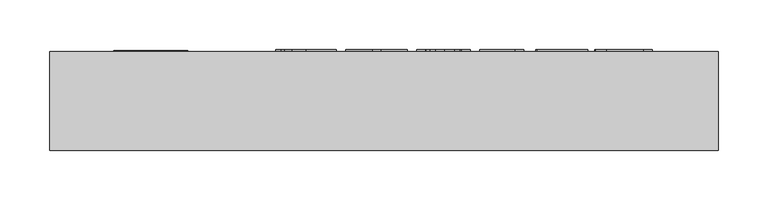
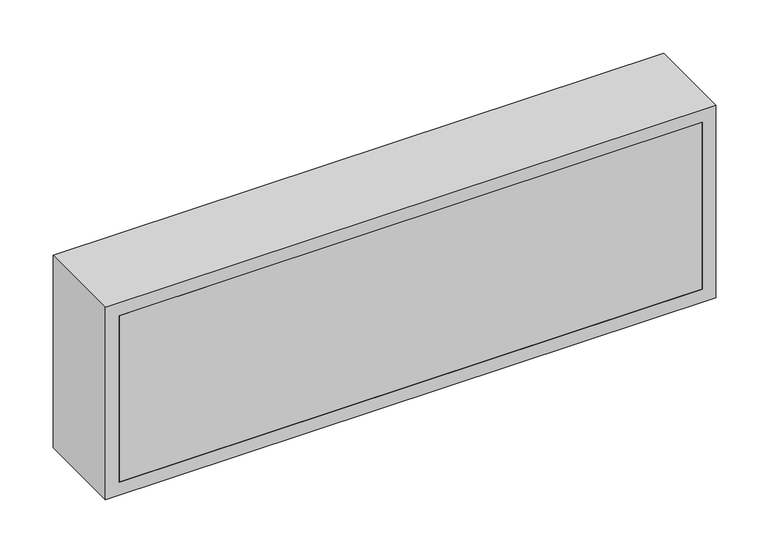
"""IFC4 building model written with IfcOpenShell, lengths in millimetres: light fixture geometry, Keluar Sign LED : Keluar Sign LED."""

from ifc_helpers import new_model, si_unit, point, frame, frame_2d, origin, place, context, project, spatial, polyline, circle_curve, trimmed, segment, composite_curve, outline, extrude, faceted_brep, source, transform, mapped, element, save


def light_fixture_4e43e032(model_context):
    return source(origin(), model_context, "Body", "SolidModel", [
        extrude(outline(polyline([(2270.0, 395.5959022), (2355.6108132, 395.5959022), (2355.6108132, 387.3109848), (2311.7913672, 387.3109848), (2355.6108132, 349.4031726), (2355.6108132, 338.917574), (2320.8961462, 368.9503996), (2270.0, 337.6014803), (2270.0, 347.0730395), (2314.4882804, 374.4736778), (2299.6660454, 387.3109848), (2270.0, 387.3109848), (2270.0, 395.5959022)])), frame((0.0, 200.0, 0.0), z_axis=(0.0, 1.0, 0.0), x_axis=(0.0, 0.0, 1.0)), (0.0, 0.0, 1.0), 2.0),
        extrude(outline(polyline([(2270.0, 330.6973825), (2355.6108132, 330.6973825), (2355.6108132, 279.6070585), (2345.9450762, 279.6070585), (2345.9450762, 322.4124651), (2318.3286849, 322.4124651), (2318.3286849, 282.3686976), (2308.6629479, 282.3686976), (2308.6629479, 322.4124651), (2279.665737, 322.4124651), (2279.665737, 278.2262389), (2270.0, 278.2262389), (2270.0, 330.6973825)])), frame((0.0, 200.0, 0.0), z_axis=(0.0, 1.0, 0.0), x_axis=(0.0, 0.0, 1.0)), (0.0, 0.0, 1.0), 2.0),
        extrude(outline(polyline([(2270.0, 265.7988628), (2355.6108132, 265.7988628), (2355.6108132, 257.5139454), (2279.665737, 257.5139454), (2279.665737, 221.6126366), (2270.0, 221.6126366), (2270.0, 265.7988628)])), frame((0.0, 200.0, 0.0), z_axis=(0.0, 1.0, 0.0), x_axis=(0.0, 0.0, 1.0)), (0.0, 0.0, 1.0), 2.0),
        extrude(outline(polyline([(2355.6108132, 166.3798539), (2355.6108132, 158.0949365), (2306.203363, 158.0949365), (2285.8039115, 160.4574325), (2273.2255082, 169.0551919), (2268.6191804, 184.9130416), (2270.6904098, 196.7605813), (2276.9040978, 205.2046166), (2288.3713728, 210.2613289), (2306.203363, 211.9468997), (2355.6108132, 211.9468997), (2355.6108132, 203.6619823), (2305.9013088, 203.6619823), (2288.9754814, 201.8172936), (2281.0141936, 195.7869957), (2278.2849174, 185.5818761), (2279.695403, 176.8708464), (2283.9268599, 170.9322435), (2292.2414433, 167.5179513), (2305.9013088, 166.3798539), (2355.6108132, 166.3798539)])), frame((0.0, 200.0, 0.0), z_axis=(0.0, 1.0, 0.0), x_axis=(0.0, 0.0, 1.0)), (0.0, 0.0, 1.0), 2.0),
        extrude(outline(polyline([(2270.0, 148.4291996), (2355.6108132, 121.8699982), (2355.6108132, 112.894671), (2270.0, 86.292319), (2270.0, 94.8792907), (2294.8547522, 102.1717441), (2294.8547522, 132.5066239), (2270.0, 139.8206526), (2270.0, 148.4291996)]), holes=[polyline([(2304.5204892, 129.6802589), (2304.5204892, 104.9981091), (2328.5338045, 112.3552884), (2346.5060342, 117.3607593), (2329.9577747, 121.4169168), (2304.5204892, 129.6802589)])]), frame((0.0, 200.0, 0.0), z_axis=(0.0, 1.0, 0.0), x_axis=(0.0, 0.0, 1.0)), (0.0, 0.0, 1.0), 2.0),
        extrude(outline(polyline([(2270.0, 76.6265821), (2355.6108132, 76.6265821), (2355.6108132, 45.9896479), (2353.2375296, 31.8254597), (2345.33018, 24.3280409), (2332.5036607, 21.3937993), (2316.9370776, 26.345332), (2309.3533577, 40.7252733), (2303.9811065, 34.0153532), (2293.1287278, 27.2407072), (2270.0, 15.8705211), (2270.0, 25.0616013), (2287.9075038, 34.6626124), (2302.2227191, 43.2064335), (2307.3468542, 48.9778277), (2308.6629479, 56.7988761), (2308.6629479, 68.3416646), (2270.0, 68.3416646), (2270.0, 76.6265821)]), holes=[polyline([(2318.3286849, 68.3416646), (2318.3286849, 47.6077958), (2319.8713192, 37.316375), (2324.7149754, 31.7391585), (2332.3957842, 29.6787168), (2342.3312125, 33.6162101), (2345.9450762, 45.3208134), (2345.9450762, 68.3416646), (2318.3286849, 68.3416646)])]), frame((0.0, 200.0, 0.0), z_axis=(0.0, 1.0, 0.0), x_axis=(0.0, 0.0, 1.0)), (0.0, 0.0, 1.0), 2.0),
        extrude(outline(composite_curve([segment(polyline([(2296.7108031, -87.5), (2355.4119272, -87.5), (2355.4119272, -147.5), (2322.9987167, -147.5), (2322.9987167, -140.7879258), (2332.8756024, -133.6119483)]), True, "CONTINUOUS"), segment(trimmed(circle_curve(frame_2d((2324.9809417, -122.7458802)), 13.4311989), [point((2332.8756024, -133.6119483))], [point((2338.4121406, -122.7458802))], True, "CARTESIAN"), True, "CONTINUOUS"), segment(polyline([(2338.4121406, -122.7458802), (2338.4121406, -104.7583474)]), True, "CONTINUOUS"), segment(trimmed(circle_curve(frame_2d((2333.574604, -104.255683)), 4.8635822), [point((2338.4121406, -104.7583474))], [point((2336.2990493, -100.2268084))], True, "CARTESIAN"), True, "CONTINUOUS"), segment(trimmed(circle_curve(frame_2d((2104.0691941, -443.6453157)), 414.5684223), [point((2336.2990493, -100.2268084))], [point((2323.3412197, -91.8118955))], True, "CARTESIAN"), True, "CONTINUOUS"), segment(trimmed(circle_curve(frame_2d((2322.189093, -94.6978333)), 3.1074158), [point((2323.3412197, -91.8118955))], [point((2319.8604508, -96.7553703))], True, "CARTESIAN"), True, "CONTINUOUS"), segment(trimmed(circle_curve(frame_2d((2392.575252, 6.516004)), 126.3028863), [point((2319.8604508, -96.7553703))], [point((2331.6316264, -104.1108173))], True, "CARTESIAN"), True, "CONTINUOUS"), segment(polyline([(2331.6316264, -104.1108173), (2331.6316264, -114.1108173), (2320.2515061, -108.3123563)]), True, "CONTINUOUS"), segment(trimmed(circle_curve(frame_2d((2306.7231442, -130.8622031)), 26.2966189), [point((2320.2515061, -108.3123563))], [point((2310.8545799, -104.8921549))], True, "CARTESIAN"), True, "CONTINUOUS"), segment(trimmed(circle_curve(frame_2d((2292.3275135, -221.3525927)), 117.9249158), [point((2310.8545799, -104.8921549))], [point((2294.3050576, -103.4442593))], True, "CARTESIAN"), True, "CONTINUOUS"), segment(polyline([(2294.3050576, -103.4442593), (2294.3050576, -84.5350869), (2287.680387, -78.7763486)]), True, "CONTINUOUS"), segment(trimmed(circle_curve(frame_2d((2287.680387, -80.0600635)), 1.2837149), [point((2287.680387, -78.7763486))], [point((2286.3966722, -80.0600635))], True, "CARTESIAN"), True, "CONTINUOUS"), segment(polyline([(2286.3966722, -80.0600635), (2286.3966722, -107.8691123)]), True, "CONTINUOUS"), segment(trimmed(circle_curve(frame_2d((2289.9322061, -107.8691123)), 3.5355339), [point((2286.3966722, -107.8691123))], [point((2289.9322061, -111.4046462))], True, "CARTESIAN"), True, "CONTINUOUS"), segment(trimmed(circle_curve(frame_2d((2309.0453468, -31.0772104)), 82.5700253), [point((2289.9322061, -111.4046462))], [point((2305.2768349, -113.5611931))], True, "CARTESIAN"), True, "CONTINUOUS"), segment(trimmed(circle_curve(frame_2d((2304.9032977, -114.7123421)), 1.2102371), [point((2305.2768349, -113.5611931))], [point((2305.648024, -115.666311))], False, "CARTESIAN"), True, "CONTINUOUS"), segment(trimmed(circle_curve(frame_2d((2413.956597, -396.6178004)), 301.1054406), [point((2305.648024, -115.666311))], [point((2271.7047746, -131.2333521))], True, "CARTESIAN"), True, "CONTINUOUS"), segment(trimmed(circle_curve(frame_2d((3167.2155777, -135.0765805)), 895.51905), [point((2271.7047746, -131.2333521))], [point((2271.7047746, -138.919809))], True, "CARTESIAN"), True, "CONTINUOUS"), segment(polyline([(2271.7047746, -138.919809), (2309.5452571, -123.6605708)]), True, "CONTINUOUS"), segment(trimmed(circle_curve(frame_2d((2311.5809544, -128.7087761)), 5.4432013), [point((2309.5452571, -123.6605708))], [point((2313.6166516, -123.6605708))], False, "CARTESIAN"), True, "CONTINUOUS"), segment(trimmed(circle_curve(frame_2d((2265.8710897, -242.0619663)), 127.6656929), [point((2313.6166516, -123.6605708))], [point((2325.8815651, -129.3797939))], False, "CARTESIAN"), True, "CONTINUOUS"), segment(trimmed(circle_curve(frame_2d((2325.4045949, -130.2754047)), 1.0147016), [point((2325.8815651, -129.3797939))], [point((2325.8815651, -131.1710155))], False, "CARTESIAN"), True, "CONTINUOUS"), segment(trimmed(circle_curve(frame_2d((2343.7364004, -164.6971894)), 37.9842003), [point((2325.8815651, -131.1710155))], [point((2315.5255728, -139.2620035))], True, "CARTESIAN"), True, "CONTINUOUS"), segment(polyline([(2315.5255728, -139.2620035), (2315.5255728, -147.5), (2269.5880728, -147.5), (2269.5880728, -87.5), (2284.5880728, -87.5), (2284.5880728, -73.2469247), (2296.7108031, -83.7850534), (2296.7108031, -87.5)]), True, "CONTINUOUS")], self_intersect=False), holes=[composite_curve([segment(trimmed(circle_curve(frame_2d((2346.5572012, -129.380779)), 6.4357168), [point((2346.5572012, -122.9450622))], [point((2346.5572012, -135.8164958))], True, "CARTESIAN"), True, "CONTINUOUS"), segment(trimmed(circle_curve(frame_2d((2346.5572012, -129.380779)), 6.4357168), [point((2346.5572012, -135.8164958))], [point((2346.5572012, -122.9450622))], True, "CARTESIAN"), True, "CONTINUOUS")], self_intersect=False)]), frame((0.0, 200.0, 0.0), z_axis=(0.0, 1.0, 0.0), x_axis=(0.0, 0.0, 1.0)), (0.0, 0.0, 1.0), 1.0),
        extrude(outline(polyline([(-197.5, 200.0), (447.5, 200.0), (447.5, 199.0), (-197.5, 199.0), (-197.5, 200.0)])), frame((0.0, 0.0, 2215.0), z_axis=(0.0, 0.0, 1.0), x_axis=(1.0, 0.0, 0.0)), (0.0, 0.0, 1.0), 195.0),
        faceted_brep([(-212.5, 100.0, 2425.0), (-212.5, 200.0, 2425.0), (-212.5, 200.0, 2200.0), (-212.5, 100.0, 2200.0), (-197.5, 102.0, 2410.0), (-197.5, 100.0, 2410.0), (-197.5, 100.0, 2215.0), (-197.5, 102.0, 2215.0), (-210.5, 198.0, 2423.0), (-210.5, 102.0, 2423.0), (-210.5, 102.0, 2202.0), (-210.5, 198.0, 2202.0), (-197.5, 200.0, 2410.0), (-197.5, 198.0, 2410.0), (-197.5, 198.0, 2215.0), (-197.5, 200.0, 2215.0), (462.5, 200.0, 2200.0), (462.5, 100.0, 2200.0), (447.5, 100.0, 2215.0), (447.5, 102.0, 2215.0), (460.5, 102.0, 2202.0), (460.5, 198.0, 2202.0), (447.5, 198.0, 2215.0), (447.5, 200.0, 2215.0), (462.5, 200.0, 2425.0), (462.5, 100.0, 2425.0), (447.5, 100.0, 2410.0), (447.5, 102.0, 2410.0), (460.5, 102.0, 2423.0), (460.5, 198.0, 2423.0), (447.5, 198.0, 2410.0), (447.5, 200.0, 2410.0)], [[[0, 1, 2, 3]], [[4, 5, 6, 7]], [[8, 9, 10, 11]], [[12, 13, 14, 15]], [[3, 2, 16, 17]], [[7, 6, 18, 19]], [[11, 10, 20, 21]], [[15, 14, 22, 23]], [[17, 16, 24, 25]], [[19, 18, 26, 27]], [[21, 20, 28, 29]], [[23, 22, 30, 31]], [[1, 24, 16, 2], [15, 23, 31, 12]], [[25, 24, 1, 0]], [[3, 17, 25, 0], [5, 26, 18, 6]], [[27, 26, 5, 4]], [[9, 28, 20, 10], [7, 19, 27, 4]], [[29, 28, 9, 8]], [[11, 21, 29, 8], [13, 30, 22, 14]], [[31, 30, 13, 12]]]),
        extrude(outline(polyline([(447.5, 100.0), (-197.5, 100.0), (-197.5, 102.0), (447.5, 102.0), (447.5, 100.0)])), frame((0.0, 0.0, 2215.0), z_axis=(0.0, 0.0, 1.0), x_axis=(1.0, 0.0, 0.0)), (0.0, 0.0, 1.0), 195.0),
    ])


if __name__ == "__main__":
    model = new_model("IFC4")
    model_context = context("Model", 3, world=origin())
    ifc_project = project(units=[si_unit("LENGTHUNIT", "METRE", prefix="MILLI")], contexts=[model_context])
    site = spatial("IfcSite", under=ifc_project)
    building = spatial("IfcBuilding", under=site)
    placement = place(None, origin())
    light_fixture_shape = light_fixture_4e43e032(model_context)
    element("IfcLightFixture", 1, ObjectType="Keluar Sign LED : Keluar Sign LED", at=placement, inside=building, context=model_context, shape_type="MappedRepresentation", body=[
        mapped(light_fixture_shape, transform((0.0, 0.0, 0.0), x_axis=(1.0, 0.0, 0.0), y_axis=(0.0, 1.0, 0.0), z_axis=(0.0, 0.0, 1.0))),
    ])
    save(model, "model.ifc")
